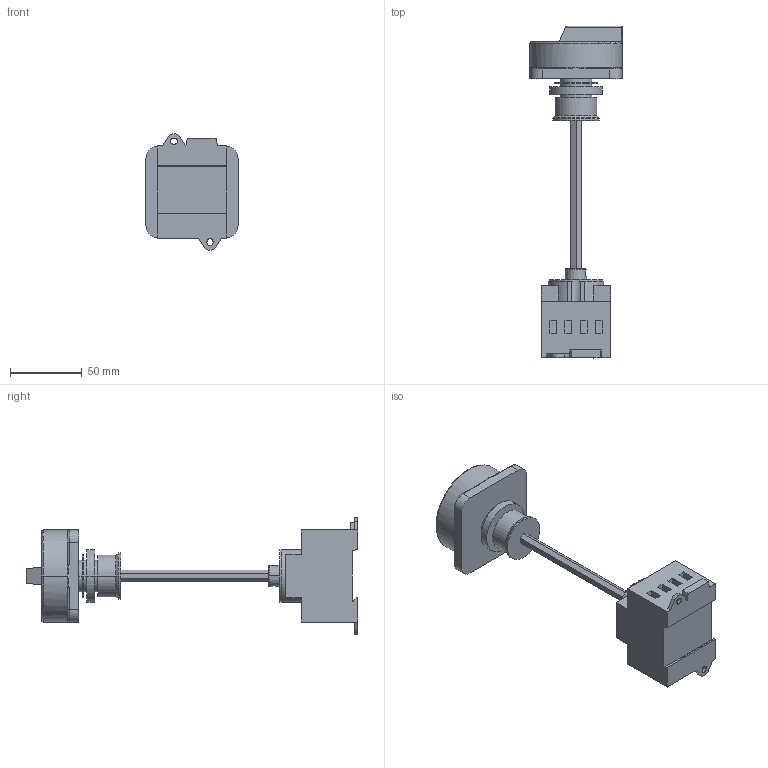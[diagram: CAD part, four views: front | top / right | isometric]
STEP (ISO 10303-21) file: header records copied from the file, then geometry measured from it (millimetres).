
FILE_DESCRIPTION (( 'STEP AP203' ), '1' );
FILE_NAME ('LTS20_25_32_40 VZVH4 A3.STEP', '2014-05-13T12:39:10', ( '' ), ( '' ), 'SwSTEP 2.0', 'SolidWorks 2014', '' );
FILE_SCHEMA (( 'CONFIG_CONTROL_DESIGN' ));
Length unit declared in the file: millimetre
Products named in the file (5): 8184; Achse TK-LT_100_300; TK2Z H4; LTS20_25_32_40 VZVH4 A3; LTS25
Assembly tree (4 placements, depth 2):
  LTS20_25_32_40 VZVH4 A3
    LTS25
    8184
    Achse TK-LT_100_300
    TK2Z H4
Bounding box: 64 x 230.7 x 80.8 mm (x, y, z)
Volume: 226644.7 mm3; surface area: 51326.5 mm2
Topology: 4 solids, 4 shells, 283 faces, 718 edges, 456 vertices
Faces by surface type: plane 157, cylinder 72, cone 23, bspline 21, torus 10
Entity records: 9717 total; most frequent: CARTESIAN_POINT 2504, ORIENTED_EDGE 1416, DIRECTION 1372, EDGE_CURVE 708, AXIS2_PLACEMENT_3D 486, VERTEX_POINT 456, VECTOR 400, LINE 400
